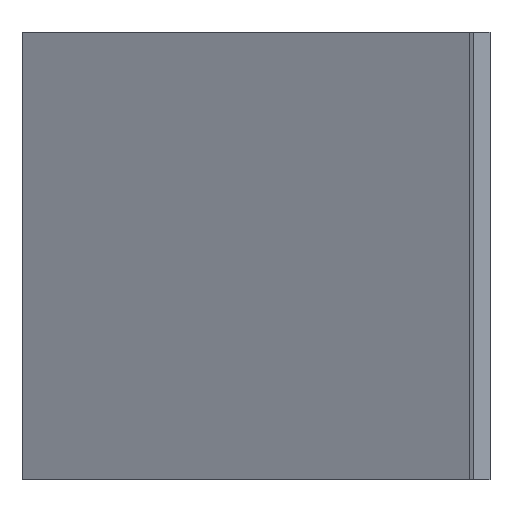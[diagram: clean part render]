
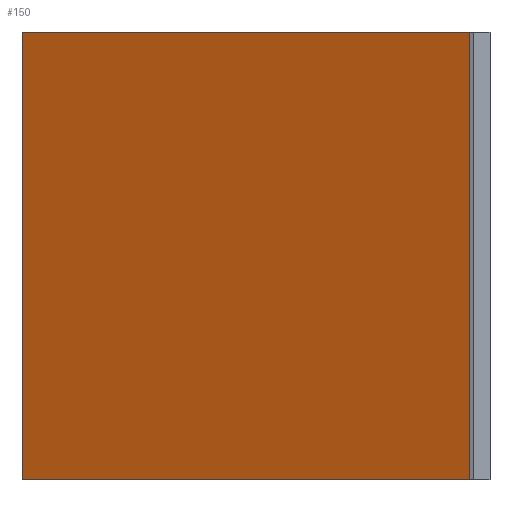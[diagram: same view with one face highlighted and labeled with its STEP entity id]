
A CAD part, left-side view. The second image highlights one B-rep face of the part: STEP entity #150.
In plain terms, the highlighted planar face has unit normal (0.901, -0.434, 0).
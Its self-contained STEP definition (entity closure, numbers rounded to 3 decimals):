
#98=CARTESIAN_POINT('Vertex',(20.,0.,0.)) ;
#101=CARTESIAN_POINT('Line Origine',(20.,0.,54.)) ;
#105=CARTESIAN_POINT('Vertex',(20.,0.,108.)) ;
#120=CARTESIAN_POINT('Axis2P3D Location',(20.,0.,0.)) ;
#125=CARTESIAN_POINT('Line Origine',(46.,54.,0.)) ;
#129=CARTESIAN_POINT('Vertex',(72.,108.,0.)) ;
#132=CARTESIAN_POINT('Line Origine',(72.,108.,54.)) ;
#136=CARTESIAN_POINT('Vertex',(72.,108.,108.)) ;
#139=CARTESIAN_POINT('Line Origine',(46.,54.,108.)) ;
#102=DIRECTION('Vector Direction',(0.,0.,1.)) ;
#121=DIRECTION('Axis2P3D Direction',(0.901,-0.434,0.)) ;
#122=DIRECTION('Axis2P3D XDirection',(0.434,0.901,0.)) ;
#126=DIRECTION('Vector Direction',(0.434,0.901,0.)) ;
#133=DIRECTION('Vector Direction',(0.,0.,1.)) ;
#140=DIRECTION('Vector Direction',(0.434,0.901,0.)) ;
#123=AXIS2_PLACEMENT_3D('Plane Axis2P3D',#120,#121,#122) ;
#145=ORIENTED_EDGE('',*,*,#107,.F.) ;
#146=ORIENTED_EDGE('',*,*,#131,.T.) ;
#147=ORIENTED_EDGE('',*,*,#138,.T.) ;
#148=ORIENTED_EDGE('',*,*,#143,.F.) ;
#103=VECTOR('Line Direction',#102,1.) ;
#127=VECTOR('Line Direction',#126,1.) ;
#134=VECTOR('Line Direction',#133,1.) ;
#141=VECTOR('Line Direction',#140,1.) ;
#150=ADVANCED_FACE('Extrude.1',(#149),#124,.T.) ;
#107=EDGE_CURVE('',#99,#106,#104,.T.) ;
#131=EDGE_CURVE('',#99,#130,#128,.T.) ;
#138=EDGE_CURVE('',#130,#137,#135,.T.) ;
#143=EDGE_CURVE('',#106,#137,#142,.T.) ;
#144=EDGE_LOOP('',(#145,#146,#147,#148)) ;
#149=FACE_OUTER_BOUND('',#144,.T.) ;
#104=LINE('Line',#101,#103) ;
#128=LINE('Line',#125,#127) ;
#135=LINE('Line',#132,#134) ;
#142=LINE('Line',#139,#141) ;
#124=PLANE('',#123) ;
#99=VERTEX_POINT('',#98) ;
#106=VERTEX_POINT('',#105) ;
#130=VERTEX_POINT('',#129) ;
#137=VERTEX_POINT('',#136) ;
